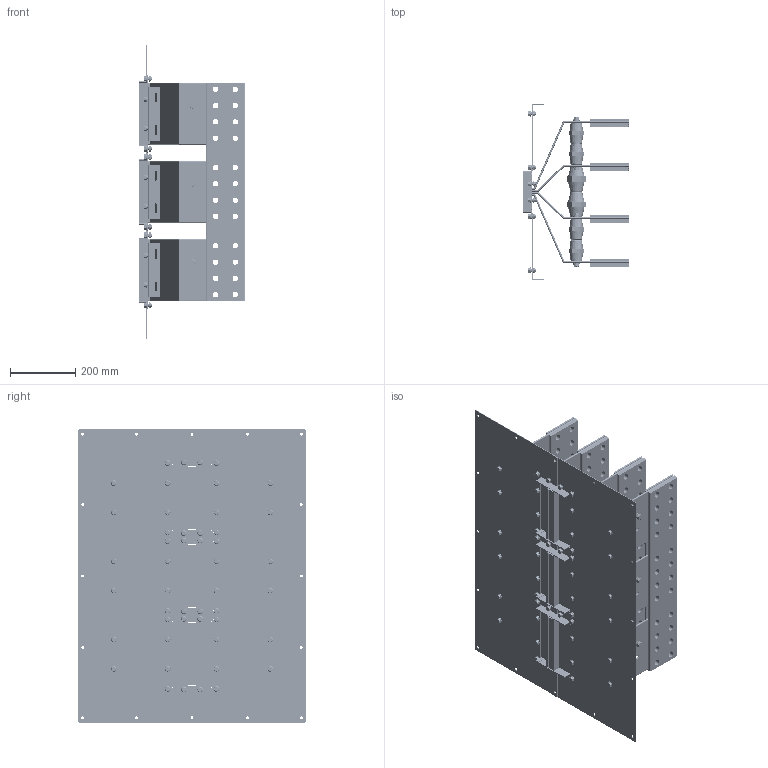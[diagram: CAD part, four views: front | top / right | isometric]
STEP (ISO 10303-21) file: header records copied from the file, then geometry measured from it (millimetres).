
FILE_DESCRIPTION(('CATIA V5 STEP','CAx-IF Rec.Pracs.--- Model Styling and Organization---1.5--- 2016-08-15','CAx-IF Rec.Pracs.---Supplemental Geometry---1.0---2011-11-01','CAx-IF Rec.Pracs.--- Composite Materials ---1.1---2010-07-15'),'2;1');
FILE_NAME('K:\COSCN 2011\32372311_RiduzioneSezioniBarre\03_Studio\__Modelli semplificati\XCP_UB semplificati per studi\XCP-HP_UB_4C_Pe_CRT_Assieme\Cu\XCP-HP_UB_4C_Pe_T_Assieme - 6300A Cu_CRT\XCP-HP_UB_4C_Pe_T_Assieme - 6300A Cu_CRT.stp','2025-05-12T12:14:25+00:00',('Utente Bticino'),('Bticino S.p.A.'),'CATIA Version 5-6 Release 2020 SP5','CATIA V5 STEP AP214 v2','none');
FILE_SCHEMA(('AUTOMOTIVE_DESIGN { 1 0 10303 214 1 1 1 1 }'));
Products named in the file (40): XCP-HP_UB_4C_Pe_T_Assieme - 6300A Cu_CRT; XCP-HP_UB_4C_Pe_T_Lamiere_6300A Cu_CRT; XCP-HP_UB_4C_Pe_T_PaccoBarre_6300A Cu_CRT; XCP-HP_UB_4C_Pe_T_PaccoBarre_6300A Cu_CRT_1; XCP-HP_UB_4C_Pe_T_PaccoBarre_6300A Cu_CRT_2; XCP-HP_UB_4C_Pe_T - 6300A Cu_Bandelle parallelo_CRT; 130006; 130184; 00750033 - RONDELLA PIANA 4.8 D.12 UNI 6592 ZB; Ass_M10x25.1; 00740025 M10x25 UNI5739; Rondella spac M10 UNI 1751; 00750005; 130006_1; 130184_1; 00750033 - RONDELLA PIANA 4.8 D.12 UNI 6592 ZB_1; 130006_2; 00750033 - RONDELLA PIANA 4.8 D.12 UNI 6592 ZB_2; 130006_3; 130006_4; 130006_5; 130006_6; 130006_7; 00750033 - RONDELLA PIANA 4.8 D.12 UNI 6592 ZB_3; 00750033 - RONDELLA PIANA 4.8 D.12 UNI 6592 ZB_4; 00750033 - RONDELLA PIANA 4.8 D.12 UNI 6592 ZB_5; 00750033 - RONDELLA PIANA 4.8 D.12 UNI 6592 ZB_6; 130006_8; 130006_9; 130006_10; 130006_11; 130184_2; 00750033 - RONDELLA PIANA 4.8 D.12 UNI 6592 ZB_7; 130184_3; 130184_4; 00750033 - RONDELLA PIANA 4.8 D.12 UNI 6592 ZB_8; 130184_5; Ass Vite+dado M8; Steel hex flanged SCREW M12x16; Steel hex flanged NUT M8
Assembly tree (103 placements, depth 3):
  XCP-HP_UB_4C_Pe_T_Assieme - 6300A Cu_CRT
    XCP-HP_UB_4C_Pe_T_Lamiere_6300A Cu_CRT
    XCP-HP_UB_4C_Pe_T_PaccoBarre_6300A Cu_CRT
    XCP-HP_UB_4C_Pe_T_PaccoBarre_6300A Cu_CRT_1
    XCP-HP_UB_4C_Pe_T_PaccoBarre_6300A Cu_CRT_2
    XCP-HP_UB_4C_Pe_T - 6300A Cu_Bandelle parallelo_CRT
    130006
    130184
    00750033 - RONDELLA PIANA 4.8 D.12 UNI 6592 ZB
    Ass_M10x25.1  x18
      00740025 M10x25 UNI5739
      Rondella spac M10 UNI 1751
      00750005
    130006_1
    130184_1
    00750033 - RONDELLA PIANA 4.8 D.12 UNI 6592 ZB_1
    130006_2
    00750033 - RONDELLA PIANA 4.8 D.12 UNI 6592 ZB_2
    130006_3
    130006_4
    130006_5
    130006_6
    130006_7
    00750033 - RONDELLA PIANA 4.8 D.12 UNI 6592 ZB_3
    00750033 - RONDELLA PIANA 4.8 D.12 UNI 6592 ZB_4
    00750033 - RONDELLA PIANA 4.8 D.12 UNI 6592 ZB_5
    00750033 - RONDELLA PIANA 4.8 D.12 UNI 6592 ZB_6
    130006_8
    130006_9
    130006_10
    130006_11
    130184_2
    00750033 - RONDELLA PIANA 4.8 D.12 UNI 6592 ZB_7
    130184_3
    130184_4
    00750033 - RONDELLA PIANA 4.8 D.12 UNI 6592 ZB_8
    130184_5
    Ass Vite+dado M8  x48
      Steel hex flanged SCREW M12x16
      Steel hex flanged NUT M8
Bounding box: 325 x 700 x 900 mm (x, y, z)
Volume: 14021564.7 mm3; surface area: 5870630.2 mm2
Topology: 221 solids, 221 shells, 5908 faces, 14700 edges, 9348 vertices
Faces by surface type: plane 2684, cylinder 1904, cone 600, bspline 528, torus 192
Entity records: 92137 total; most frequent: CARTESIAN_POINT 17414, ORIENTED_EDGE 16640, DIRECTION 11914, EDGE_CURVE 8320, VERTEX_POINT 5396, VECTOR 5196, LINE 5196, AXIS2_PLACEMENT_3D 4858
